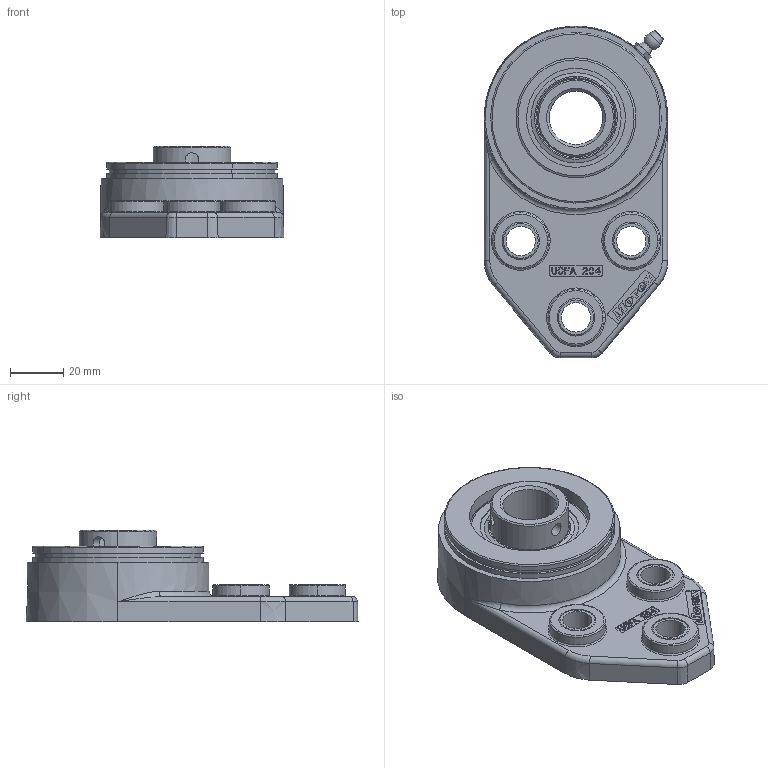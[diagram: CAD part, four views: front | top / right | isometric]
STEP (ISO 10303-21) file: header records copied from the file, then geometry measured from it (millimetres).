
FILE_DESCRIPTION(('CATIA V5 STEP Exchange'),'2;1');
FILE_NAME('C:\Users\dentellad\Desktop\Product1.stp','2017-01-27T13:31:55+00:00',('none'),('none'),'Version 5-6 Release 2012','CATIA V5 STEP AP203','none');
FILE_SCHEMA(('CONFIG_CONTROL_DESIGN'));
Length unit declared in the file: millimetre
Products named in the file (1): Product1
Assembly tree (6 placements, depth 2):
  Product1
    #58
    #3046
    #4042  x3
    #4307
Bounding box: 68.77 x 124.17 x 34.4 mm (x, y, z)
Volume: 104769.3 mm3; surface area: 42248 mm2
Topology: 19 solids, 19 shells, 902 faces, 2445 edges, 1577 vertices
Faces by surface type: plane 672, cylinder 105, cone 54, sphere 36, torus 33, bspline 2
Entity records: 26952 total; most frequent: CARTESIAN_POINT 5392, ORIENTED_EDGE 4718, DIRECTION 3818, EDGE_CURVE 2359, VECTOR 1972, LINE 1972, VERTEX_POINT 1553, AXIS2_PLACEMENT_3D 1088
